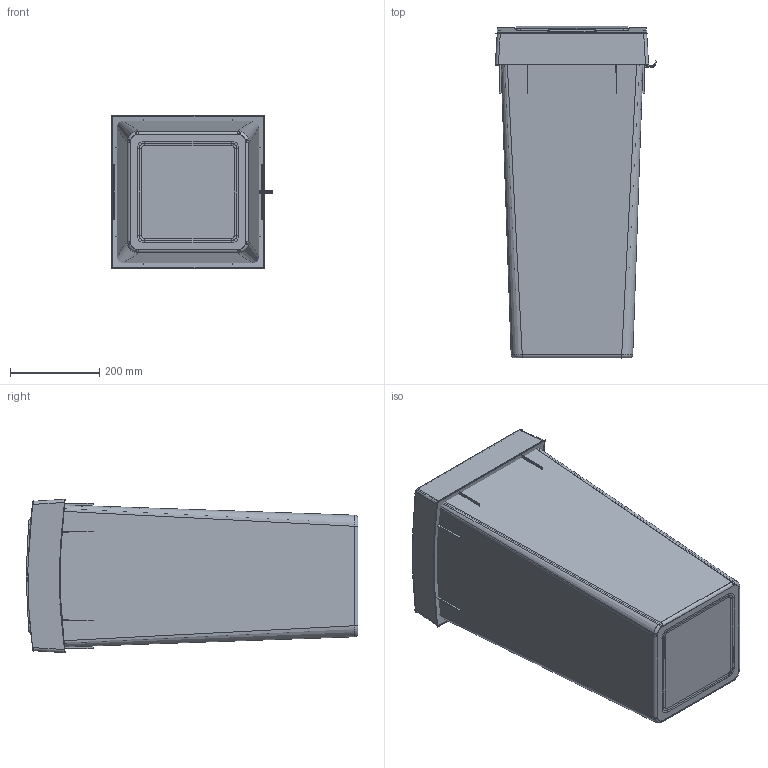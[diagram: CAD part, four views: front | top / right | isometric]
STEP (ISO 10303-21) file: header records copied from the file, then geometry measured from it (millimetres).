
FILE_DESCRIPTION((''),'2;1');
FILE_NAME('80-81-002_S60','2024-09-17T08:50:16',('bru'),(''),'CREO PARAMETRIC BY PTC INC, 2022024','CREO PARAMETRIC BY PTC INC, 2022024','');
FILE_SCHEMA(('AUTOMOTIVE_DESIGN { 1 0 10303 214 1 1 1 1 }'));
Length unit declared in the file: millimetre
Products named in the file (1): 80-81-002_S60
Bounding box: 362.32 x 745.01 x 344.5 mm (x, y, z)
Volume: 2483738.6 mm3; surface area: 2918665.3 mm2
Topology: 5 solids, 10 shells, 568 faces, 1689 edges, 1156 vertices
Faces by surface type: plane 299, cylinder 179, bspline 58, cone 16, extrusion 8, torus 6, sphere 2
Entity records: 33863 total; most frequent: CARTESIAN_POINT 13431, ORIENTED_EDGE 3210, DIRECTION 2658, PRESENTATION_STYLE_ASSIGNMENT 1752, STYLED_ITEM 1752, CURVE_STYLE 1742, EDGE_CURVE 1649, VERTEX_POINT 1112
